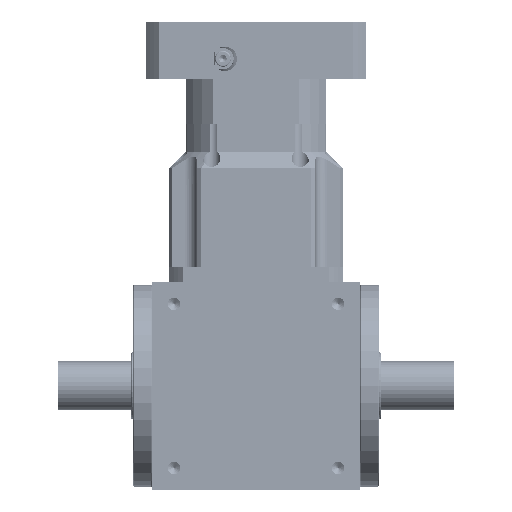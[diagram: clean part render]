
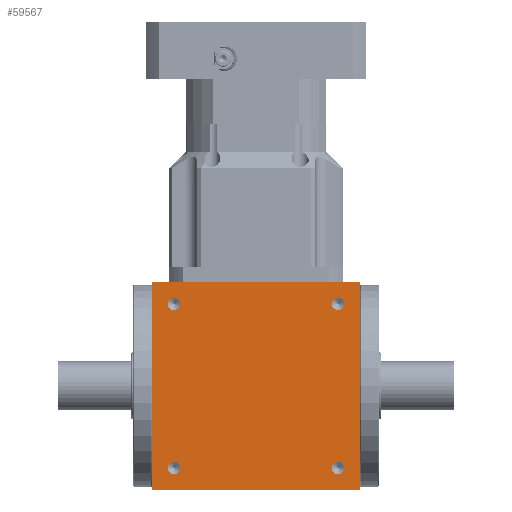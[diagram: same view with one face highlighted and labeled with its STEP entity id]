
A CAD part, front view. The second image highlights one B-rep face of the part: STEP entity #59567.
In plain terms, the highlighted planar face has unit normal (0, -1, 0).
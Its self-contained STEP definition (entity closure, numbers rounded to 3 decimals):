
#122 = EDGE_LOOP ( 'NONE', ( #40604, #79122, #6694, #92658 ) ) ;
#488 = VECTOR ( 'NONE', #39987, 1000. ) ;
#812 = AXIS2_PLACEMENT_3D ( 'NONE', #99810, #25210, #103564 ) ;
#1076 = VERTEX_POINT ( 'NONE', #73536 ) ;
#1532 = EDGE_CURVE ( 'NONE', #91109, #45644, #102644, .T. ) ;
#2597 = CIRCLE ( 'NONE', #65134, 5.1 ) ;
#3145 = CARTESIAN_POINT ( 'NONE',  ( 100.28, -71.559, -55. ) ) ;
#6305 = AXIS2_PLACEMENT_3D ( 'NONE', #103172, #80251, #87894 ) ;
#6409 = DIRECTION ( 'NONE',  ( 0., 0., -1. ) ) ;
#6694 = ORIENTED_EDGE ( 'NONE', *, *, #55622, .F. ) ;
#7597 = DIRECTION ( 'NONE',  ( 0., 0., -1. ) ) ;
#7634 = VERTEX_POINT ( 'NONE', #3145 ) ;
#7853 = ORIENTED_EDGE ( 'NONE', *, *, #21200, .F. ) ;
#11324 = CIRCLE ( 'NONE', #56543, 5.1 ) ;
#11389 = CIRCLE ( 'NONE', #67009, 5.1 ) ;
#13517 = VECTOR ( 'NONE', #84658, 1000. ) ;
#15744 = DIRECTION ( 'NONE',  ( 0., 0., -1. ) ) ;
#16010 = FACE_BOUND ( 'NONE', #66114, .T. ) ;
#16729 = CIRCLE ( 'NONE', #6305, 5.1 ) ;
#17304 = CARTESIAN_POINT ( 'NONE',  ( -69.72, -71.559, 115. ) ) ;
#17837 = DIRECTION ( 'NONE',  ( 0., 0., -1. ) ) ;
#19158 = AXIS2_PLACEMENT_3D ( 'NONE', #71792, #97412, #15744 ) ;
#20075 = EDGE_LOOP ( 'NONE', ( #7853, #101583 ) ) ;
#21200 = EDGE_CURVE ( 'NONE', #1076, #104277, #2597, .T. ) ;
#23326 = FACE_OUTER_BOUND ( 'NONE', #122, .T. ) ;
#24351 = CARTESIAN_POINT ( 'NONE',  ( 82.28, -71.559, -37. ) ) ;
#24455 = DIRECTION ( 'NONE',  ( 0., -1., 0. ) ) ;
#24510 = VERTEX_POINT ( 'NONE', #45698 ) ;
#25210 = DIRECTION ( 'NONE',  ( 0., -1., 0. ) ) ;
#29981 = ORIENTED_EDGE ( 'NONE', *, *, #36872, .F. ) ;
#30456 = EDGE_CURVE ( 'NONE', #106800, #7634, #67758, .T. ) ;
#30958 = DIRECTION ( 'NONE',  ( 0., -1., 0. ) ) ;
#32101 = CARTESIAN_POINT ( 'NONE',  ( -51.72, -71.559, 97. ) ) ;
#32344 = FACE_BOUND ( 'NONE', #70484, .T. ) ;
#34051 = CARTESIAN_POINT ( 'NONE',  ( 82.28, -71.559, 97. ) ) ;
#35686 = CIRCLE ( 'NONE', #63484, 5.1 ) ;
#36389 = ORIENTED_EDGE ( 'NONE', *, *, #1532, .F. ) ;
#36862 = EDGE_LOOP ( 'NONE', ( #29981, #36389 ) ) ;
#36872 = EDGE_CURVE ( 'NONE', #45644, #91109, #11324, .T. ) ;
#37234 = CIRCLE ( 'NONE', #812, 5.1 ) ;
#38153 = EDGE_CURVE ( 'NONE', #59063, #62292, #65529, .T. ) ;
#39239 = AXIS2_PLACEMENT_3D ( 'NONE', #17304, #41302, #65751 ) ;
#39547 = CIRCLE ( 'NONE', #74319, 5.1 ) ;
#39987 = DIRECTION ( 'NONE',  ( 0., 0., -1. ) ) ;
#40604 = ORIENTED_EDGE ( 'NONE', *, *, #46624, .T. ) ;
#41000 = CARTESIAN_POINT ( 'NONE',  ( 82.28, -71.559, 91.9 ) ) ;
#41302 = DIRECTION ( 'NONE',  ( 0., 1., 0. ) ) ;
#43929 = ORIENTED_EDGE ( 'NONE', *, *, #105209, .F. ) ;
#45273 = LINE ( 'NONE', #71874, #71536 ) ;
#45304 = VERTEX_POINT ( 'NONE', #71713 ) ;
#45644 = VERTEX_POINT ( 'NONE', #41000 ) ;
#45698 = CARTESIAN_POINT ( 'NONE',  ( 82.28, -71.559, -31.9 ) ) ;
#46624 = EDGE_CURVE ( 'NONE', #62292, #7634, #75509, .T. ) ;
#47317 = CARTESIAN_POINT ( 'NONE',  ( -69.72, -71.559, 115. ) ) ;
#47799 = VERTEX_POINT ( 'NONE', #90261 ) ;
#48425 = CARTESIAN_POINT ( 'NONE',  ( -69.72, -71.559, -55. ) ) ;
#49394 = EDGE_CURVE ( 'NONE', #47799, #45304, #11389, .T. ) ;
#53247 = ORIENTED_EDGE ( 'NONE', *, *, #98911, .F. ) ;
#55622 = EDGE_CURVE ( 'NONE', #59063, #106800, #45273, .T. ) ;
#55984 = DIRECTION ( 'NONE',  ( 0., 0., -1. ) ) ;
#56543 = AXIS2_PLACEMENT_3D ( 'NONE', #34051, #101567, #93369 ) ;
#58636 = CARTESIAN_POINT ( 'NONE',  ( -69.72, -71.559, -55. ) ) ;
#59063 = VERTEX_POINT ( 'NONE', #47317 ) ;
#59567 = ADVANCED_FACE ( 'NONE', ( #32344, #90582, #16010, #91354, #23326 ), #65226, .F. ) ;
#60176 = ORIENTED_EDGE ( 'NONE', *, *, #49394, .F. ) ;
#62292 = VERTEX_POINT ( 'NONE', #48425 ) ;
#63237 = EDGE_CURVE ( 'NONE', #104277, #1076, #35686, .T. ) ;
#63484 = AXIS2_PLACEMENT_3D ( 'NONE', #105569, #30958, #55984 ) ;
#63725 = EDGE_CURVE ( 'NONE', #81252, #24510, #16729, .T. ) ;
#65134 = AXIS2_PLACEMENT_3D ( 'NONE', #91895, #92423, #17837 ) ;
#65226 = PLANE ( 'NONE',  #39239 ) ;
#65529 = LINE ( 'NONE', #80802, #488 ) ;
#65751 = DIRECTION ( 'NONE',  ( 0., 0., 1. ) ) ;
#66114 = EDGE_LOOP ( 'NONE', ( #84151, #43929 ) ) ;
#66257 = DIRECTION ( 'NONE',  ( 1., 0., 0. ) ) ;
#67009 = AXIS2_PLACEMENT_3D ( 'NONE', #32101, #24455, #7597 ) ;
#67758 = LINE ( 'NONE', #92820, #13517 ) ;
#67776 = CARTESIAN_POINT ( 'NONE',  ( 82.28, -71.559, 102.1 ) ) ;
#68894 = CARTESIAN_POINT ( 'NONE',  ( -51.72, -71.559, -31.9 ) ) ;
#70484 = EDGE_LOOP ( 'NONE', ( #53247, #60176 ) ) ;
#71536 = VECTOR ( 'NONE', #87177, 1000. ) ;
#71713 = CARTESIAN_POINT ( 'NONE',  ( -51.72, -71.559, 91.9 ) ) ;
#71792 = CARTESIAN_POINT ( 'NONE',  ( 82.28, -71.559, 97. ) ) ;
#71874 = CARTESIAN_POINT ( 'NONE',  ( -69.72, -71.559, 115. ) ) ;
#73536 = CARTESIAN_POINT ( 'NONE',  ( -51.72, -71.559, -42.1 ) ) ;
#74319 = AXIS2_PLACEMENT_3D ( 'NONE', #24351, #80980, #6409 ) ;
#75509 = LINE ( 'NONE', #58636, #99629 ) ;
#79122 = ORIENTED_EDGE ( 'NONE', *, *, #30456, .F. ) ;
#80251 = DIRECTION ( 'NONE',  ( 0., -1., 0. ) ) ;
#80802 = CARTESIAN_POINT ( 'NONE',  ( -69.72, -71.559, 115. ) ) ;
#80980 = DIRECTION ( 'NONE',  ( 0., -1., 0. ) ) ;
#81252 = VERTEX_POINT ( 'NONE', #98535 ) ;
#84151 = ORIENTED_EDGE ( 'NONE', *, *, #63725, .F. ) ;
#84658 = DIRECTION ( 'NONE',  ( 0., 0., -1. ) ) ;
#87177 = DIRECTION ( 'NONE',  ( 1., 0., 0. ) ) ;
#87239 = CARTESIAN_POINT ( 'NONE',  ( 100.28, -71.559, 115. ) ) ;
#87894 = DIRECTION ( 'NONE',  ( 0., 0., -1. ) ) ;
#90261 = CARTESIAN_POINT ( 'NONE',  ( -51.72, -71.559, 102.1 ) ) ;
#90582 = FACE_BOUND ( 'NONE', #36862, .T. ) ;
#91109 = VERTEX_POINT ( 'NONE', #67776 ) ;
#91354 = FACE_BOUND ( 'NONE', #20075, .T. ) ;
#91895 = CARTESIAN_POINT ( 'NONE',  ( -51.72, -71.559, -37. ) ) ;
#92423 = DIRECTION ( 'NONE',  ( 0., -1., 0. ) ) ;
#92658 = ORIENTED_EDGE ( 'NONE', *, *, #38153, .T. ) ;
#92820 = CARTESIAN_POINT ( 'NONE',  ( 100.28, -71.559, 115. ) ) ;
#93369 = DIRECTION ( 'NONE',  ( 0., 0., -1. ) ) ;
#97412 = DIRECTION ( 'NONE',  ( 0., -1., 0. ) ) ;
#98535 = CARTESIAN_POINT ( 'NONE',  ( 82.28, -71.559, -42.1 ) ) ;
#98911 = EDGE_CURVE ( 'NONE', #45304, #47799, #37234, .T. ) ;
#99629 = VECTOR ( 'NONE', #66257, 1000. ) ;
#99810 = CARTESIAN_POINT ( 'NONE',  ( -51.72, -71.559, 97. ) ) ;
#101567 = DIRECTION ( 'NONE',  ( 0., -1., 0. ) ) ;
#101583 = ORIENTED_EDGE ( 'NONE', *, *, #63237, .F. ) ;
#102644 = CIRCLE ( 'NONE', #19158, 5.1 ) ;
#103172 = CARTESIAN_POINT ( 'NONE',  ( 82.28, -71.559, -37. ) ) ;
#103564 = DIRECTION ( 'NONE',  ( 0., 0., -1. ) ) ;
#104277 = VERTEX_POINT ( 'NONE', #68894 ) ;
#105209 = EDGE_CURVE ( 'NONE', #24510, #81252, #39547, .T. ) ;
#105569 = CARTESIAN_POINT ( 'NONE',  ( -51.72, -71.559, -37. ) ) ;
#106800 = VERTEX_POINT ( 'NONE', #87239 ) ;
